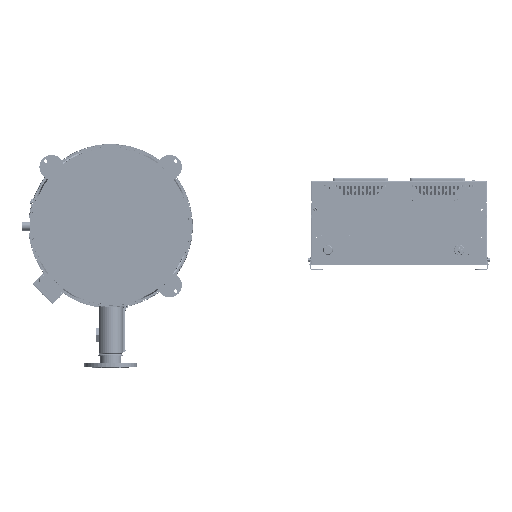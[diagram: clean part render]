
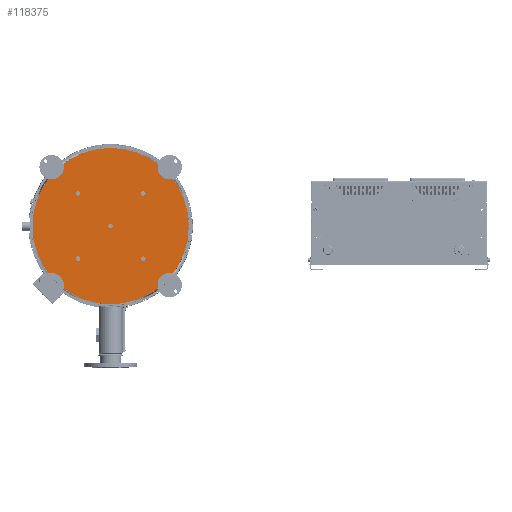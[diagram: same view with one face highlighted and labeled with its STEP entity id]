
A CAD part, front view. The second image highlights one B-rep face of the part: STEP entity #118375.
In plain terms, the highlighted planar face has unit normal (0, -1, 0).
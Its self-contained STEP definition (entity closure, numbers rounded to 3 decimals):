
#5813=FACE_BOUND('',#37429,.T.);
#5814=FACE_BOUND('',#37430,.T.);
#5815=FACE_BOUND('',#37431,.T.);
#5816=FACE_BOUND('',#37432,.T.);
#5817=FACE_BOUND('',#37433,.T.);
#14290=LINE('',#203447,#23958);
#14291=LINE('',#203450,#23959);
#23958=VECTOR('',#157948,10.);
#23959=VECTOR('',#157951,10.);
#30193=FACE_OUTER_BOUND('',#37428,.T.);
#37428=EDGE_LOOP('',(#98728,#98729,#98730));
#37429=EDGE_LOOP('',(#98731));
#37430=EDGE_LOOP('',(#98732));
#37431=EDGE_LOOP('',(#98733));
#37432=EDGE_LOOP('',(#98734));
#37433=EDGE_LOOP('',(#98735));
#43534=CIRCLE('',#129279,288.);
#43535=CIRCLE('',#129280,8.5);
#43536=CIRCLE('',#129281,8.5);
#43537=CIRCLE('',#129282,8.5);
#43538=CIRCLE('',#129283,8.5);
#43539=CIRCLE('',#129284,8.5);
#54449=VERTEX_POINT('',#203445);
#54450=VERTEX_POINT('',#203446);
#54451=VERTEX_POINT('',#203448);
#54452=VERTEX_POINT('',#203451);
#54453=VERTEX_POINT('',#203453);
#54454=VERTEX_POINT('',#203455);
#54455=VERTEX_POINT('',#203457);
#54456=VERTEX_POINT('',#203459);
#70641=EDGE_CURVE('',#54449,#54450,#14290,.T.);
#70642=EDGE_CURVE('',#54450,#54451,#43534,.T.);
#70643=EDGE_CURVE('',#54451,#54449,#14291,.T.);
#70644=EDGE_CURVE('',#54452,#54452,#43535,.T.);
#70645=EDGE_CURVE('',#54453,#54453,#43536,.T.);
#70646=EDGE_CURVE('',#54454,#54454,#43537,.T.);
#70647=EDGE_CURVE('',#54455,#54455,#43538,.T.);
#70648=EDGE_CURVE('',#54456,#54456,#43539,.T.);
#98728=ORIENTED_EDGE('',*,*,#70641,.T.);
#98729=ORIENTED_EDGE('',*,*,#70642,.T.);
#98730=ORIENTED_EDGE('',*,*,#70643,.T.);
#98731=ORIENTED_EDGE('',*,*,#70644,.T.);
#98732=ORIENTED_EDGE('',*,*,#70645,.T.);
#98733=ORIENTED_EDGE('',*,*,#70646,.T.);
#98734=ORIENTED_EDGE('',*,*,#70647,.T.);
#98735=ORIENTED_EDGE('',*,*,#70648,.T.);
#108045=PLANE('',#129278);
#118375=ADVANCED_FACE('',(#30193,#5813,#5814,#5815,#5816,#5817),#108045,
 .F.);
#129278=AXIS2_PLACEMENT_3D('',#203444,#157946,#157947);
#129279=AXIS2_PLACEMENT_3D('',#203449,#157949,#157950);
#129280=AXIS2_PLACEMENT_3D('',#203452,#157952,#157953);
#129281=AXIS2_PLACEMENT_3D('',#203454,#157954,#157955);
#129282=AXIS2_PLACEMENT_3D('',#203456,#157956,#157957);
#129283=AXIS2_PLACEMENT_3D('',#203458,#157958,#157959);
#129284=AXIS2_PLACEMENT_3D('',#203460,#157960,#157961);
#157946=DIRECTION('center_axis',(0.,1.,0.));
#157947=DIRECTION('ref_axis',(1.,0.,0.));
#157948=DIRECTION('',(-0.707,0.,-0.707));
#157949=DIRECTION('center_axis',(0.,-1.,0.));
#157950=DIRECTION('ref_axis',(1.,0.,-0.01));
#157951=DIRECTION('',(0.707,0.,-0.707));
#157952=DIRECTION('center_axis',(0.,1.,0.));
#157953=DIRECTION('ref_axis',(-1.,0.,0.));
#157954=DIRECTION('center_axis',(0.,1.,0.));
#157955=DIRECTION('ref_axis',(-1.,0.,0.));
#157956=DIRECTION('center_axis',(0.,1.,0.));
#157957=DIRECTION('ref_axis',(-1.,0.,0.));
#157958=DIRECTION('center_axis',(0.,1.,0.));
#157959=DIRECTION('ref_axis',(-1.,0.,0.));
#157960=DIRECTION('center_axis',(0.,1.,0.));
#157961=DIRECTION('ref_axis',(-1.,0.,0.));
#203444=CARTESIAN_POINT('Origin',(79.447,363.304,33.684));
#203445=CARTESIAN_POINT('',(-178.994,363.304,33.684));
#203446=CARTESIAN_POINT('',(-181.978,363.304,30.7));
#203447=CARTESIAN_POINT('',(-178.994,363.304,33.684));
#203448=CARTESIAN_POINT('',(-181.978,363.304,36.669));
#203449=CARTESIAN_POINT('Origin',(106.006,363.304,33.684));
#203450=CARTESIAN_POINT('',(-181.978,363.304,36.669));
#203451=CARTESIAN_POINT('',(-5.494,363.304,-86.316));
#203452=CARTESIAN_POINT('Origin',(-13.994,363.304,-86.316));
#203453=CARTESIAN_POINT('',(234.506,363.304,-86.316));
#203454=CARTESIAN_POINT('Origin',(226.006,363.304,-86.316));
#203455=CARTESIAN_POINT('',(114.506,363.304,33.684));
#203456=CARTESIAN_POINT('Origin',(106.006,363.304,33.684));
#203457=CARTESIAN_POINT('',(-5.494,363.304,153.684));
#203458=CARTESIAN_POINT('Origin',(-13.994,363.304,153.684));
#203459=CARTESIAN_POINT('',(234.506,363.304,153.684));
#203460=CARTESIAN_POINT('Origin',(226.006,363.304,153.684));
